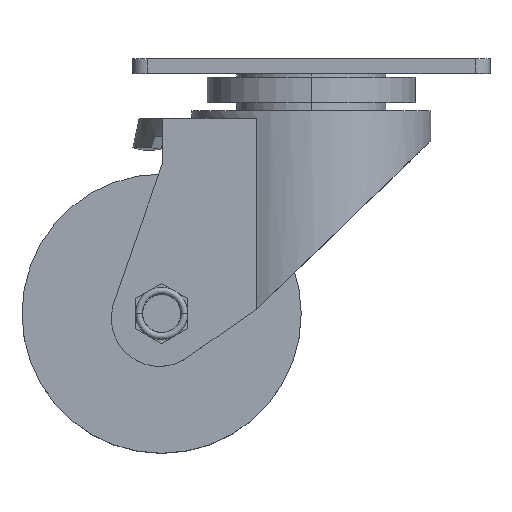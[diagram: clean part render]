
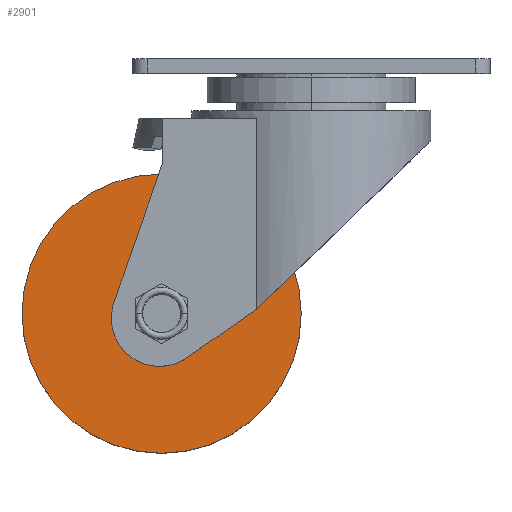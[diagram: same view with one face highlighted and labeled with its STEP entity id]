
A CAD part, top view. The second image highlights one B-rep face of the part: STEP entity #2901.
In plain terms, the highlighted planar face has unit normal (0, 0, 1).
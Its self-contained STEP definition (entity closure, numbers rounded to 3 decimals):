
#43 = ORIENTED_EDGE ( 'NONE', *, *, #3252, .F. ) ;
#224 = AXIS2_PLACEMENT_3D ( 'NONE', #3524, #1611, #3818 ) ;
#315 = ORIENTED_EDGE ( 'NONE', *, *, #1296, .F. ) ;
#635 = DIRECTION ( 'NONE',  ( 0., 0., 1. ) ) ;
#689 = VERTEX_POINT ( 'NONE', #2615 ) ;
#703 = FACE_BOUND ( 'NONE', #1045, .T. ) ;
#901 = ORIENTED_EDGE ( 'NONE', *, *, #1710, .T. ) ;
#932 = CARTESIAN_POINT ( 'NONE',  ( 246.415, 123.133, -19. ) ) ;
#1011 = CARTESIAN_POINT ( 'NONE',  ( 241.315, 123.133, -19. ) ) ;
#1040 = VERTEX_POINT ( 'NONE', #2030 ) ;
#1045 = EDGE_LOOP ( 'NONE', ( #43, #315 ) ) ;
#1081 = CARTESIAN_POINT ( 'NONE',  ( 241.315, 123.133, -19. ) ) ;
#1149 = VERTEX_POINT ( 'NONE', #1230 ) ;
#1230 = CARTESIAN_POINT ( 'NONE',  ( 278.815, 123.133, -19. ) ) ;
#1237 = PLANE ( 'NONE',  #2884 ) ;
#1296 = EDGE_CURVE ( 'NONE', #2784, #1040, #1511, .T. ) ;
#1323 = DIRECTION ( 'NONE',  ( 1., 0., 0. ) ) ;
#1394 = DIRECTION ( 'NONE',  ( 1., 0., 0. ) ) ;
#1503 = AXIS2_PLACEMENT_3D ( 'NONE', #1011, #3241, #1323 ) ;
#1511 = CIRCLE ( 'NONE', #224, 5.1 ) ;
#1525 = DIRECTION ( 'NONE',  ( 0., 0., 1. ) ) ;
#1537 = EDGE_LOOP ( 'NONE', ( #2262, #901 ) ) ;
#1611 = DIRECTION ( 'NONE',  ( 0., 0., 1. ) ) ;
#1710 = EDGE_CURVE ( 'NONE', #689, #1149, #2745, .T. ) ;
#2030 = CARTESIAN_POINT ( 'NONE',  ( 246.415, 123.133, -19. ) ) ;
#2113 = EDGE_CURVE ( 'NONE', #1149, #689, #2267, .T. ) ;
#2262 = ORIENTED_EDGE ( 'NONE', *, *, #2113, .T. ) ;
#2267 = CIRCLE ( 'NONE', #1503, 37.5 ) ;
#2615 = CARTESIAN_POINT ( 'NONE',  ( 203.815, 123.133, -19. ) ) ;
#2661 = AXIS2_PLACEMENT_3D ( 'NONE', #3432, #1525, #3740 ) ;
#2745 = CIRCLE ( 'NONE', #2661, 37.5 ) ;
#2784 = VERTEX_POINT ( 'NONE', #3114 ) ;
#2872 = DIRECTION ( 'NONE',  ( 1., 0., 0. ) ) ;
#2884 = AXIS2_PLACEMENT_3D ( 'NONE', #932, #635, #2872 ) ;
#2901 = ADVANCED_FACE ( 'NONE', ( #3230, #703 ), #1237, .T. ) ;
#3114 = CARTESIAN_POINT ( 'NONE',  ( 236.215, 123.133, -19. ) ) ;
#3230 = FACE_OUTER_BOUND ( 'NONE', #1537, .T. ) ;
#3241 = DIRECTION ( 'NONE',  ( 0., 0., 1. ) ) ;
#3252 = EDGE_CURVE ( 'NONE', #1040, #2784, #3892, .T. ) ;
#3309 = DIRECTION ( 'NONE',  ( 0., 0., 1. ) ) ;
#3348 = AXIS2_PLACEMENT_3D ( 'NONE', #1081, #3309, #1394 ) ;
#3432 = CARTESIAN_POINT ( 'NONE',  ( 241.315, 123.133, -19. ) ) ;
#3524 = CARTESIAN_POINT ( 'NONE',  ( 241.315, 123.133, -19. ) ) ;
#3740 = DIRECTION ( 'NONE',  ( 1., 0., 0. ) ) ;
#3818 = DIRECTION ( 'NONE',  ( 1., 0., 0. ) ) ;
#3892 = CIRCLE ( 'NONE', #3348, 5.1 ) ;
